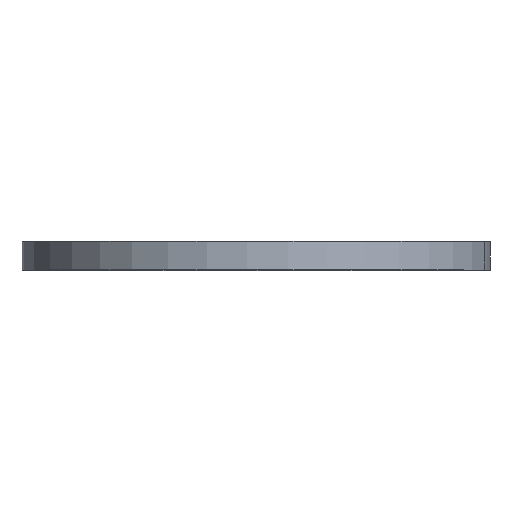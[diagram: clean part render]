
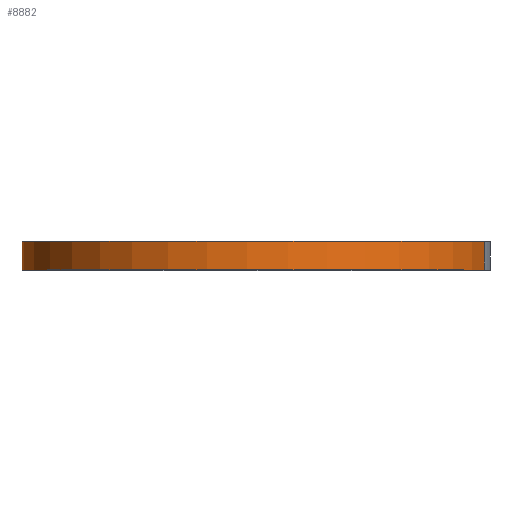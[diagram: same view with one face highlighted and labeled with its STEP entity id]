
A CAD part, top view. The second image highlights one B-rep face of the part: STEP entity #8882.
In plain terms, the highlighted cylindrical face has radius 16.5 mm (diameter 33 mm), a partial arc.
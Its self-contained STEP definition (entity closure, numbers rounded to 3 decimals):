
#1989=DIRECTION('',(0.,1.,0.));
#1990=VECTOR('',#1989,2.);
#1991=CARTESIAN_POINT('',(17.468,0.,3.6));
#1992=LINE('',#1991,#1990);
#1993=CARTESIAN_POINT('',(1.365,0.,0.));
#1994=DIRECTION('',(0.,-1.,0.));
#1995=DIRECTION('',(0.976,0.,0.218));
#1996=AXIS2_PLACEMENT_3D('',#1993,#1994,#1995);
#1998=DIRECTION('',(0.,1.,0.));
#1999=VECTOR('',#1998,2.);
#2000=CARTESIAN_POINT('',(17.865,0.,0.1));
#2001=LINE('',#2000,#1999);
#2019=CARTESIAN_POINT('',(1.365,2.,0.));
#2020=DIRECTION('',(0.,-1.,0.));
#2021=DIRECTION('',(0.976,0.,0.218));
#2022=AXIS2_PLACEMENT_3D('',#2019,#2020,#2021);
#7594=CARTESIAN_POINT('',(17.468,0.,3.6));
#7595=CARTESIAN_POINT('',(17.468,2.,3.6));
#7596=VERTEX_POINT('',#7594);
#7597=VERTEX_POINT('',#7595);
#7602=CARTESIAN_POINT('',(17.865,0.,0.1));
#7603=CARTESIAN_POINT('',(17.865,2.,0.1));
#7604=VERTEX_POINT('',#7602);
#7605=VERTEX_POINT('',#7603);
#8868=CARTESIAN_POINT('',(1.365,-10.,0.));
#8869=DIRECTION('',(0.,1.,0.));
#8870=DIRECTION('',(1.,0.,0.));
#8871=AXIS2_PLACEMENT_3D('',#8868,#8869,#8870);
#8872=CYLINDRICAL_SURFACE('',#8871,16.5);
#8874=ORIENTED_EDGE('',*,*,#8873,.F.);
#8876=ORIENTED_EDGE('',*,*,#8875,.F.);
#8877=ORIENTED_EDGE('',*,*,#7743,.T.);
#8879=ORIENTED_EDGE('',*,*,#8878,.T.);
#8880=EDGE_LOOP('',(#8874,#8876,#8877,#8879));
#8881=FACE_OUTER_BOUND('',#8880,.F.);
#8882=ADVANCED_FACE('',(#8881),#8872,.T.);
#1997=CIRCLE('',#1996,16.5);
#2023=CIRCLE('',#2022,16.5);
#7743=EDGE_CURVE('',#7596,#7604,#1997,.T.);
#8873=EDGE_CURVE('',#7597,#7605,#2023,.T.);
#8875=EDGE_CURVE('',#7596,#7597,#1992,.T.);
#8878=EDGE_CURVE('',#7604,#7605,#2001,.T.);
